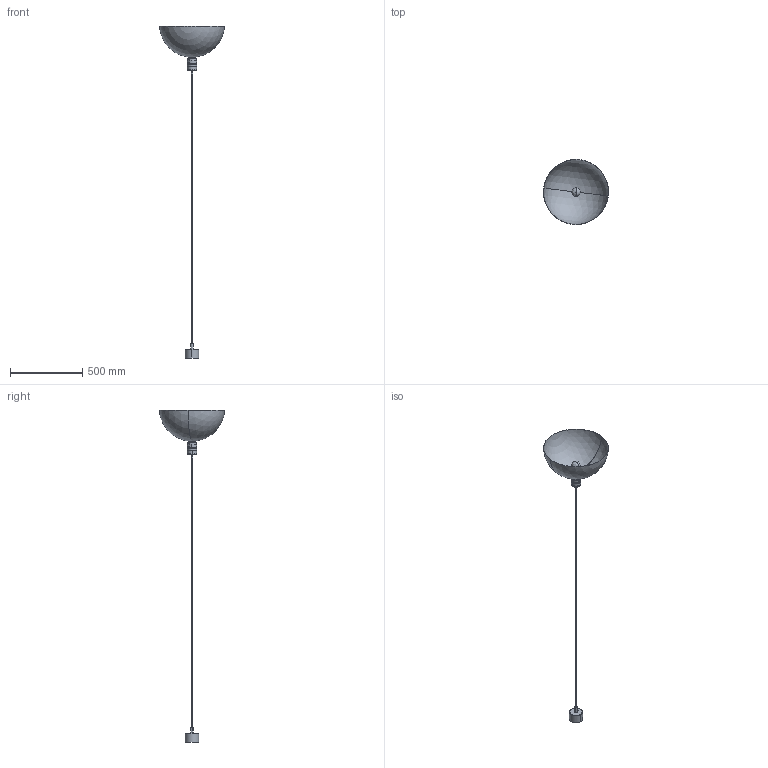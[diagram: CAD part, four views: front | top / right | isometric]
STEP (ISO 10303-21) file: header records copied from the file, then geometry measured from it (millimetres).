
FILE_DESCRIPTION (( 'STEP AP214' ), '1' );
FILE_NAME ('3D_AM4Z.STEP', '2018-02-21T16:20:27', ( 'Utente' ), ( '' ), 'SwSTEP 2.0', 'SolidWorks 2016', '' );
FILE_SCHEMA (( 'AUTOMOTIVE_DESIGN' ));
Length unit declared in the file: millimetre
Products named in the file (9): 010ALB701400; _U3; 744ALBEHW511; 010ALB701900; 010ALB701100; 082COM000366; 010ALB702000; 010ALB702100; 3D_AM4Z
Assembly tree (9 placements, depth 3):
  3D_AM4Z
    744ALBEHW511
      010ALB702100
      010ALB702000
      082COM000366
      010ALB701100
      010ALB701900
    010ALB702100
    _U3
    010ALB701400
Bounding box: 448.92 x 449.32 x 2290.25 mm (x, y, z)
Volume: 1143538 mm3; surface area: 770887.5 mm2
Topology: 9 solids, 9 shells, 165 faces, 380 edges, 236 vertices
Faces by surface type: cylinder 85, cone 30, plane 28, torus 12, bspline 6, sphere 4
Entity records: 9288 total; most frequent: CARTESIAN_POINT 5311, DIRECTION 737, ORIENTED_EDGE 704, EDGE_CURVE 352, AXIS2_PLACEMENT_3D 314, VERTEX_POINT 220, EDGE_LOOP 196, CIRCLE 156
